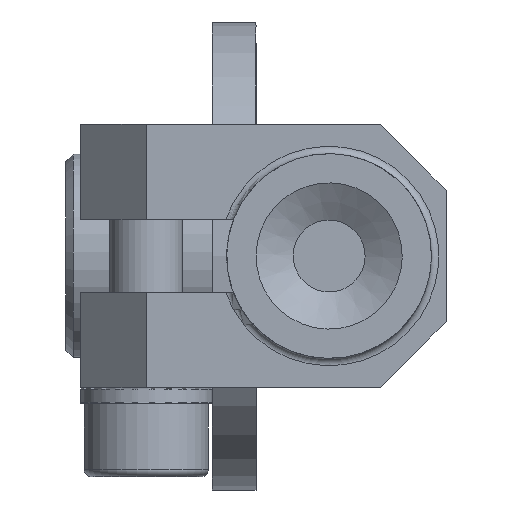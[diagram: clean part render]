
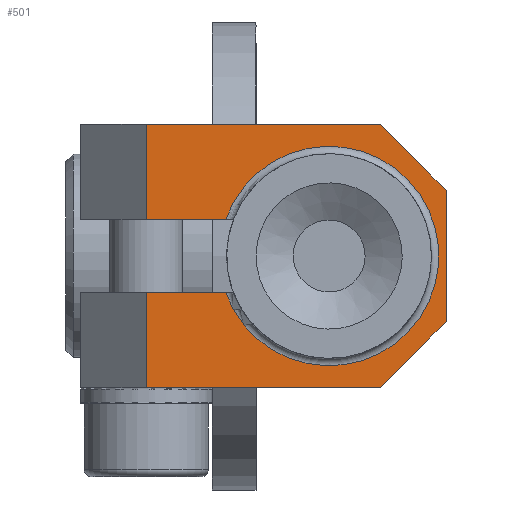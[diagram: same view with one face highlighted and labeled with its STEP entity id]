
A CAD part, front view. The second image highlights one B-rep face of the part: STEP entity #501.
In plain terms, the highlighted planar face has unit normal (0, -1, 0).
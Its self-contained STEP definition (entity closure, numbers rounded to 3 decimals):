
#501=ADVANCED_FACE('',(#1156),#1157,.F.);
#1156=FACE_OUTER_BOUND('',#2069,.T.);
#1157=PLANE('',#2070);
#2069=EDGE_LOOP('',(#3036,#3037,#3038,#3039,#3040,#3041,#3042,#3043,#3044,#3045));
#2070=AXIS2_PLACEMENT_3D('',#3046,#3047,#3048);
#3036=ORIENTED_EDGE('',*,*,#5595,.T.);
#3037=ORIENTED_EDGE('',*,*,#5596,.T.);
#3038=ORIENTED_EDGE('',*,*,#5597,.T.);
#3039=ORIENTED_EDGE('',*,*,#5553,.T.);
#3040=ORIENTED_EDGE('',*,*,#5557,.T.);
#3041=ORIENTED_EDGE('',*,*,#5598,.T.);
#3042=ORIENTED_EDGE('',*,*,#5599,.F.);
#3043=ORIENTED_EDGE('',*,*,#5582,.T.);
#3044=ORIENTED_EDGE('',*,*,#5593,.T.);
#3045=ORIENTED_EDGE('',*,*,#5577,.T.);
#3046=CARTESIAN_POINT('',(-12.672,-11.644,-18.0));
#3047=DIRECTION('',(0.,1.0,0.0));
#3048=DIRECTION('',(-1.0,0.,0.0));
#5553=EDGE_CURVE('',#6585,#6589,#6591,.T.);
#5557=EDGE_CURVE('',#6589,#6596,#6598,.T.);
#5577=EDGE_CURVE('',#6632,#6630,#6633,.F.);
#5582=EDGE_CURVE('',#6641,#6639,#6642,.T.);
#5593=EDGE_CURVE('',#6639,#6632,#6657,.T.);
#5595=EDGE_CURVE('',#6630,#6659,#6660,.T.);
#5596=EDGE_CURVE('',#6659,#6661,#6662,.T.);
#5597=EDGE_CURVE('',#6661,#6585,#6663,.T.);
#5598=EDGE_CURVE('',#6596,#6664,#6665,.T.);
#5599=EDGE_CURVE('',#6641,#6664,#6666,.T.);
#6585=VERTEX_POINT('',#8124);
#6589=VERTEX_POINT('',#8133);
#6591=CIRCLE('',#8140,7.5);
#6596=VERTEX_POINT('',#8146);
#6598=LINE('',#8149,#8150);
#6630=VERTEX_POINT('',#8250);
#6632=VERTEX_POINT('',#8253);
#6633=LINE('',#8254,#8255);
#6639=VERTEX_POINT('',#8263);
#6641=VERTEX_POINT('',#8266);
#6642=LINE('',#8267,#8268);
#6657=LINE('',#8317,#8318);
#6659=VERTEX_POINT('',#8320);
#6660=LINE('',#8321,#8322);
#6661=VERTEX_POINT('',#8323);
#6662=LINE('',#8324,#8325);
#6663=LINE('',#8326,#8327);
#6664=VERTEX_POINT('',#8328);
#6665=LINE('',#8329,#8330);
#6666=LINE('',#8331,#8332);
#8124=CARTESIAN_POINT('',(-27.743,-11.644,-6.5));
#8133=CARTESIAN_POINT('',(-27.743,-11.644,-11.5));
#8140=AXIS2_PLACEMENT_3D('',#10250,#10251,#10252);
#8146=CARTESIAN_POINT('',(-33.172,-11.644,-11.5));
#8149=CARTESIAN_POINT('',(-12.672,-11.644,-11.5));
#8150=VECTOR('',#10255,1.0);
#8250=CARTESIAN_POINT('',(-17.172,-11.644,0.0));
#8253=CARTESIAN_POINT('',(-12.672,-11.644,-4.5));
#8254=CARTESIAN_POINT('',(-12.672,-11.644,-4.5));
#8255=VECTOR('',#10276,1.0);
#8263=CARTESIAN_POINT('',(-12.672,-11.644,-13.5));
#8266=CARTESIAN_POINT('',(-17.172,-11.644,-18.0));
#8267=CARTESIAN_POINT('',(-17.172,-11.644,-18.0));
#8268=VECTOR('',#10280,1.0);
#8317=CARTESIAN_POINT('',(-12.672,-11.644,-18.0));
#8318=VECTOR('',#10291,1.0);
#8320=CARTESIAN_POINT('',(-33.172,-11.644,0.0));
#8321=CARTESIAN_POINT('',(-12.672,-11.644,0.0));
#8322=VECTOR('',#10292,1.0);
#8323=CARTESIAN_POINT('',(-33.172,-11.644,-6.5));
#8324=CARTESIAN_POINT('',(-33.172,-11.644,-18.0));
#8325=VECTOR('',#10293,1.0);
#8326=CARTESIAN_POINT('',(-12.672,-11.644,-6.5));
#8327=VECTOR('',#10294,1.0);
#8328=CARTESIAN_POINT('',(-33.172,-11.644,-18.0));
#8329=CARTESIAN_POINT('',(-33.172,-11.644,-18.0));
#8330=VECTOR('',#10295,1.0);
#8331=CARTESIAN_POINT('',(-12.672,-11.644,-18.0));
#8332=VECTOR('',#10296,1.0);
#10250=CARTESIAN_POINT('',(-20.672,-11.644,-9.0));
#10251=DIRECTION('',(0.,1.0,0.0));
#10252=DIRECTION('',(-1.0,0.,0.0));
#10255=DIRECTION('',(-1.0,0.,0.));
#10276=DIRECTION('',(0.707,0.,-0.707));
#10280=DIRECTION('',(0.707,0.,0.707));
#10291=DIRECTION('',(0.0,0.0,1.0));
#10292=DIRECTION('',(-1.0,0.,0.0));
#10293=DIRECTION('',(0.0,0.0,-1.0));
#10294=DIRECTION('',(1.0,0.,0.0));
#10295=DIRECTION('',(0.0,0.0,-1.0));
#10296=DIRECTION('',(-1.0,0.,0.0));
